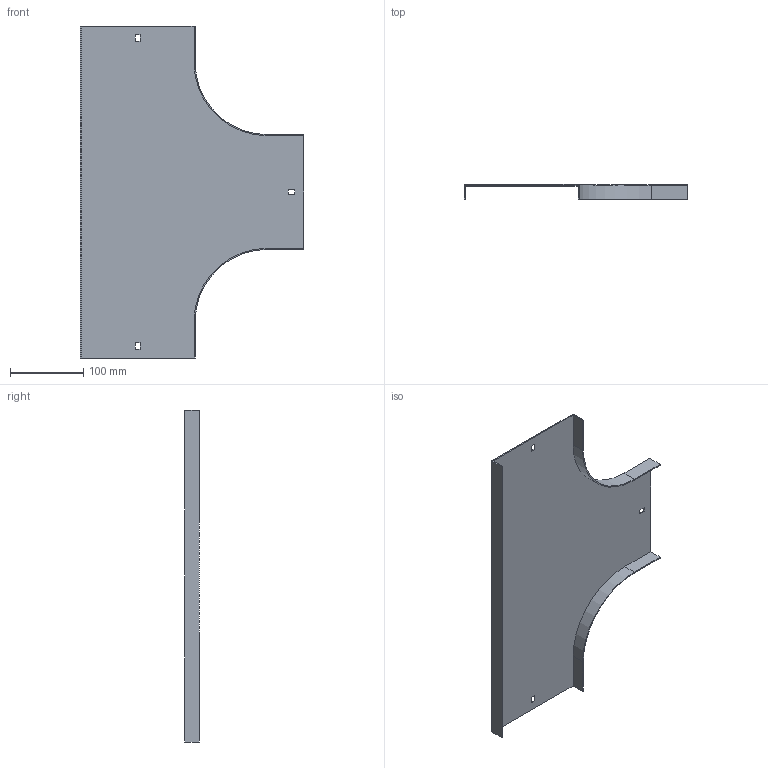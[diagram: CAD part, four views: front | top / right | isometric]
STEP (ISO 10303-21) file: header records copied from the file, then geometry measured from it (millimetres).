
FILE_DESCRIPTION (( 'STEP AP214' ), '1' );
FILE_NAME ('15N1R150.step', '2025-02-21T09:52:01', ( '' ), ( '' ), 'SwSTEP 2.0', 'SolidWorks 2023', '' );
FILE_SCHEMA (( 'AUTOMOTIVE_DESIGN' ));
Length unit declared in the file: millimetre
Products named in the file (1): 15N1R150
Bounding box: 305.5 x 20 x 454 mm (x, y, z)
Volume: 174672.9 mm3; surface area: 235354.9 mm2
Topology: 1 solids, 1 shells, 34 faces, 96 edges, 64 vertices
Faces by surface type: plane 30, cylinder 4
Entity records: 1123 total; most frequent: CARTESIAN_POINT 195, ORIENTED_EDGE 192, DIRECTION 174, EDGE_CURVE 96, VECTOR 88, LINE 88, VERTEX_POINT 64, AXIS2_PLACEMENT_3D 43
